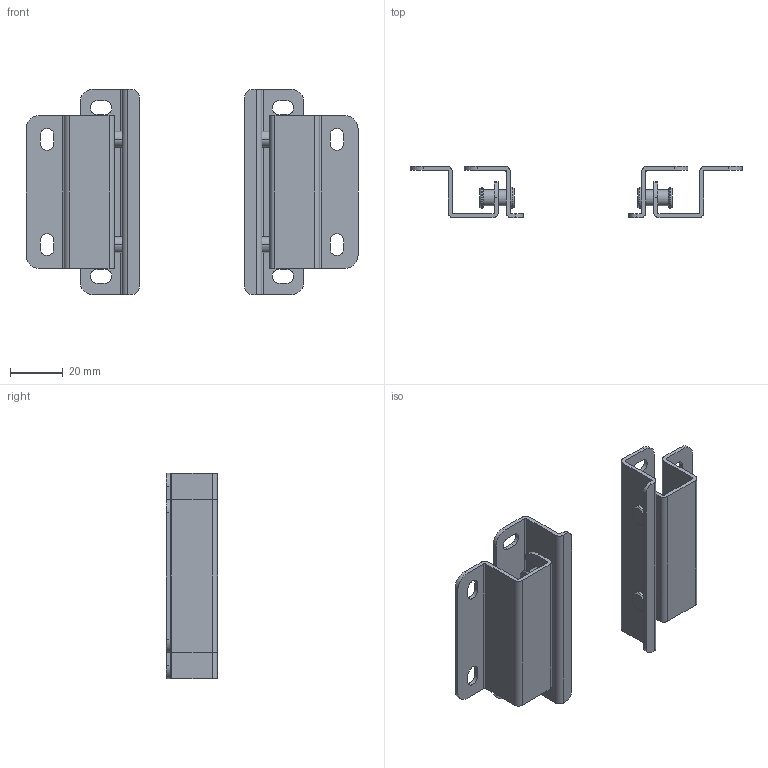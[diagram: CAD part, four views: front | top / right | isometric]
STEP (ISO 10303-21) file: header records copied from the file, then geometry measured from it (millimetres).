
FILE_DESCRIPTION (( 'STEP AP214' ), '1' );
FILE_NAME ('N424-SB.STEP', '2025-10-07T07:58:17', ( '' ), ( '' ), 'SwSTEP 2.0', 'SolidWorks 2024', '' );
FILE_SCHEMA (( 'AUTOMOTIVE_DESIGN' ));
Length unit declared in the file: millimetre
Products named in the file (3): SideBracket; N424-SB; Hinge
Assembly tree (4 placements, depth 2):
  N424-SB
    SideBracket  x2
    Hinge  x2
Bounding box: 126 x 19.5 x 78 mm (x, y, z)
Volume: 20486 mm3; surface area: 28104.1 mm2
Topology: 4 solids, 4 shells, 212 faces, 552 edges, 360 vertices
Faces by surface type: cylinder 104, plane 84, cone 24
Entity records: 3404 total; most frequent: DIRECTION 618, CARTESIAN_POINT 569, ORIENTED_EDGE 552, EDGE_CURVE 276, AXIS2_PLACEMENT_3D 229, VERTEX_POINT 180, VECTOR 160, LINE 160
